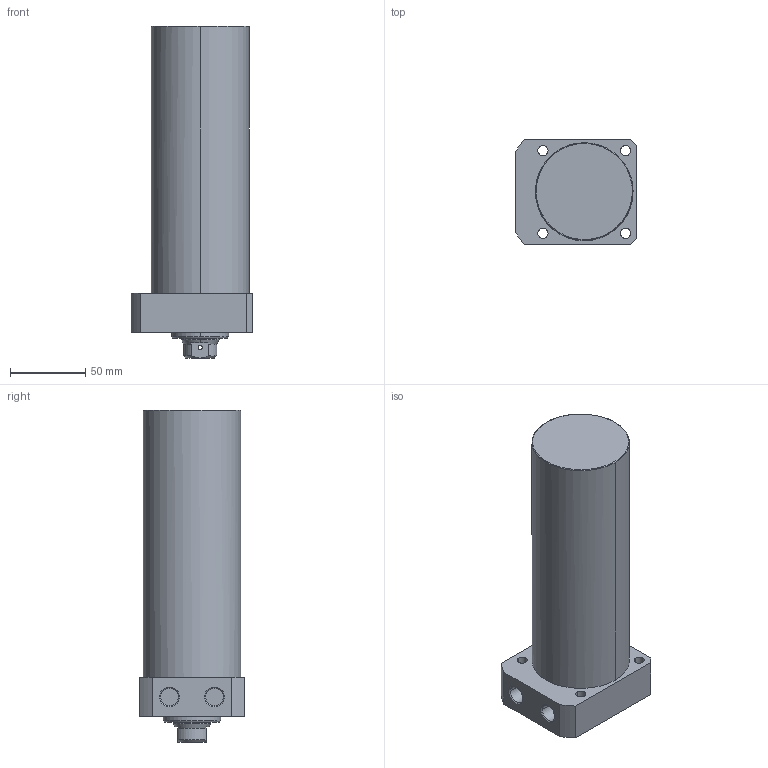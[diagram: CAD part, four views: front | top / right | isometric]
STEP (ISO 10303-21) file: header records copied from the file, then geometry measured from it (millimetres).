
FILE_DESCRIPTION((' '),'2;1');
FILE_NAME( 'TLLR-065CB-145.STEP.stp', '2025-10-24T16:34:58', (' '), ('--- Datakit www.datakit.com---'), ' Datakit CrossCadWare V2024.1 Dec 21 2023', 'Mastercam 2025', ' ');
FILE_SCHEMA(('AUTOMOTIVE_DESIGN { 1 0 10303 214 1 1 1 1 }'));
Length unit declared in the file: millimetre
Products named in the file (1): TLLR-065CB-145
Bounding box: 81 x 70 x 221 mm (x, y, z)
Volume: 734545.3 mm3; surface area: 60818.6 mm2
Topology: 1 solids, 1 shells, 67 faces, 197 edges, 136 vertices
Faces by surface type: cylinder 32, plane 19, cone 14, torus 2
Entity records: 3278 total; most frequent: CARTESIAN_POINT 1359, DIRECTION 426, ORIENTED_EDGE 390, EDGE_CURVE 195, AXIS2_PLACEMENT_3D 179, VERTEX_POINT 136, CIRCLE 111, EDGE_LOOP 85
